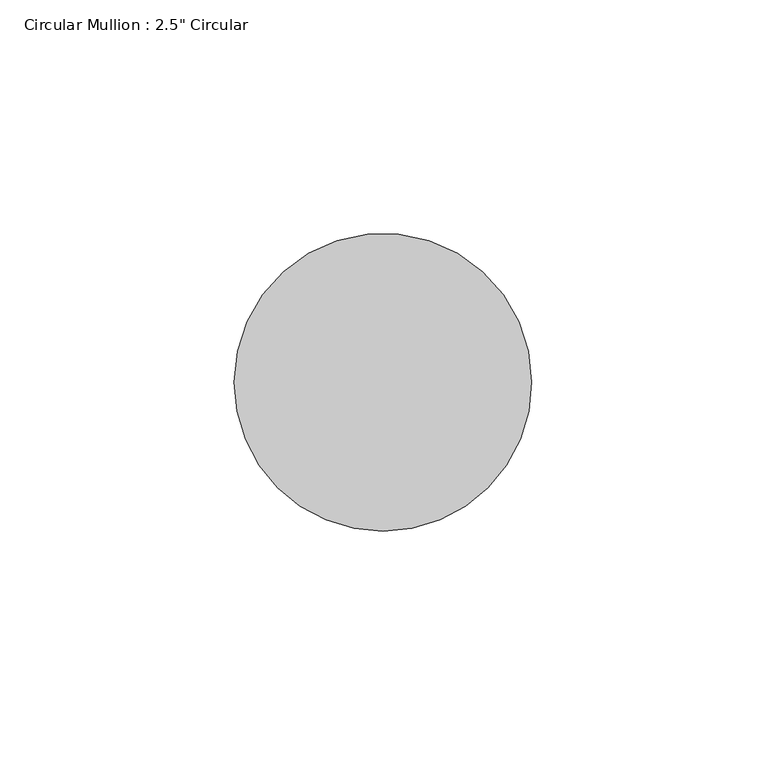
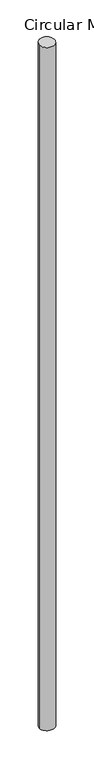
"""IFC4 building model written with IfcOpenShell, lengths in millimetres: member geometry."""

from ifc_helpers import new_model, si_unit, frame, origin, place, context, project, spatial, ellipse_curve, source, transform, mapped, element, save
from ifc_brep_helpers import plane_surface, cylinder_surface, advanced_brep


def member_465d86df(model_context):
    return source(origin(), model_context, "Body", "AdvancedBrep", [
        advanced_brep(
        [(-63.5, 0.0, -1.8231715), (0.0, 0.0, 0.0), (0.0, 0.0, -3038.9597562), (-63.5, 0.0, -3037.5762505)],
        [
            (0, 1, ellipse_curve(frame((-31.75, 0.0, -0.9115858), z_axis=(0.028654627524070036, 0.05592074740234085, -0.9980239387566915), x_axis=(0.45512970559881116, 0.8882053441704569, 0.06283484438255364)), 31.8128642, 31.75)),
            (1, 2),
            (2, 3, ellipse_curve(frame((-31.75, 0.0, -3038.2680033), z_axis=(0.021762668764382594, 0.04247079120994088, 0.9988606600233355), x_axis=(-0.45551127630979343, -0.8889499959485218, 0.04772192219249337)), 31.7862153, 31.75)),
            (3, 0),
            (1, 0, ellipse_curve(frame((-31.75, 0.0, -0.9115858), z_axis=(0.028654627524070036, 0.05592074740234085, -0.9980239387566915), x_axis=(0.45512970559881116, 0.8882053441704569, 0.06283484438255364)), 31.8128642, 31.75)),
            (3, 2, ellipse_curve(frame((-31.75, 0.0, -3038.2680033), z_axis=(0.021762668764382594, 0.04247079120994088, 0.9988606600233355), x_axis=(-0.45551127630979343, -0.8889499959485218, 0.04772192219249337)), 31.7862153, 31.75)),
        ],
        [
            cylinder_surface(frame((-31.75, 0.0, 0.0), z_axis=(0.0, 0.0, 1.0), x_axis=(1.0, 0.0, 0.0)), 31.75),
            plane_surface(frame((271.2610173, -138.9982032, 0.0), z_axis=(-0.028654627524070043, -0.05592074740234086, 0.9980239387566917), x_axis=(-0.4551297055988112, -0.888205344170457, -0.06283484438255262))),
            plane_surface(frame((271.2610173, -138.9982032, -3038.9597562), z_axis=(-0.021762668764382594, -0.04247079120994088, -0.9988606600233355), x_axis=(-0.45551127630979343, -0.8889499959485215, 0.04772192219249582))),
        ],
        [
            (0, [[1, 2, 3, 4]]),
            (0, [[5, -4, 6, -2]]),
            (1, [[-1, -5]]),
            (2, [[-6, -3]]),
        ],
    ),
    ])


if __name__ == "__main__":
    model = new_model("IFC4")
    model_context = context("Model", 3, world=origin())
    ifc_project = project(units=[si_unit("LENGTHUNIT", "METRE", prefix="MILLI")], contexts=[model_context])
    site = spatial("IfcSite", under=ifc_project)
    building = spatial("IfcBuilding", under=site)
    placement = place(None, origin())
    member_shape = member_465d86df(model_context)
    element("IfcMember", 1, ObjectType="Circular Mullion : 2.5\" Circular", at=placement, inside=building, context=model_context, shape_type="MappedRepresentation", body=[
        mapped(member_shape, transform((0.0, 0.0, 0.0), x_axis=(1.0, 0.0, 0.0), y_axis=(0.0, 1.0, 0.0), z_axis=(0.0, 0.0, 1.0))),
    ])
    save(model, "model.ifc")
